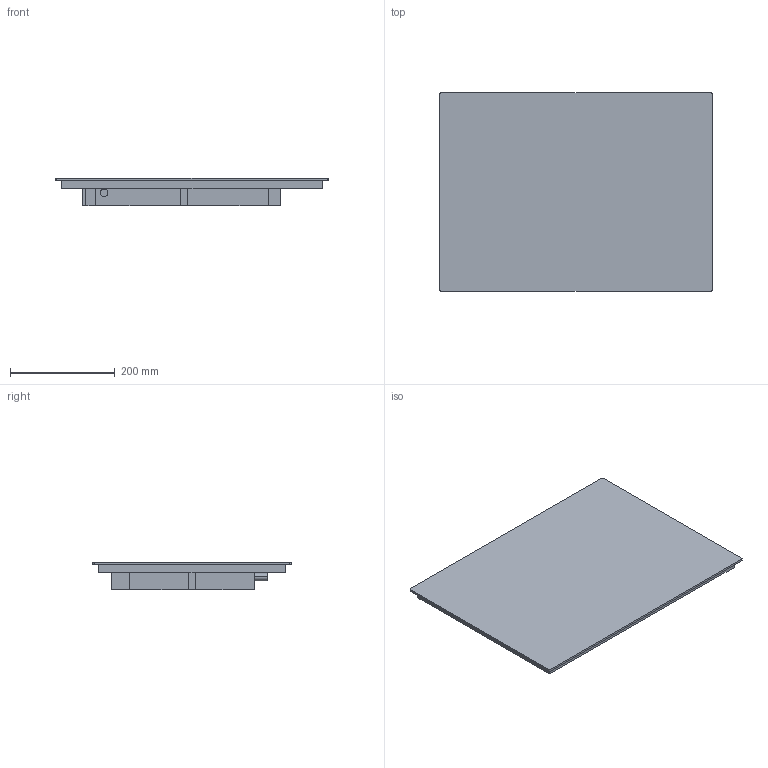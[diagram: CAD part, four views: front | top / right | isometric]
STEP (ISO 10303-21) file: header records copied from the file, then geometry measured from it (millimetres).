
FILE_DESCRIPTION(('CATIA V5 STEP','CAx-IF Rec.Pracs.--- Model Styling and Organization---1.2---2011-12-15'),'2;1');
FILE_NAME('d:\opendxmdata\jobs\0171455\0004_001_out\Simp_CS7612.stp','2017-12-12T09:29:38+00:00',('none'),('none'),'Version 5-6 Release 2012','CATIA V5 STEP AP214','none');
FILE_SCHEMA(('AUTOMOTIVE_DESIGN { 1 0 10303 214 1 1 1 1 }'));
Length unit declared in the file: millimetre
Products named in the file (1): Simp_CS7612
Bounding box: 520 x 378 x 53.3 mm (x, y, z)
Volume: 6832447 mm3; surface area: 826538.5 mm2
Topology: 3 solids, 3 shells, 43 faces, 108 edges, 73 vertices
Faces by surface type: plane 37, cylinder 6
Entity records: 1308 total; most frequent: CARTESIAN_POINT 220, ORIENTED_EDGE 216, DIRECTION 184, EDGE_CURVE 108, VECTOR 96, LINE 96, VERTEX_POINT 72, AXIS2_PLACEMENT_3D 51
